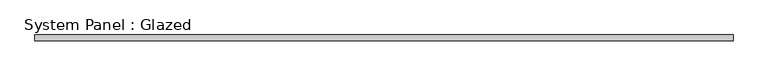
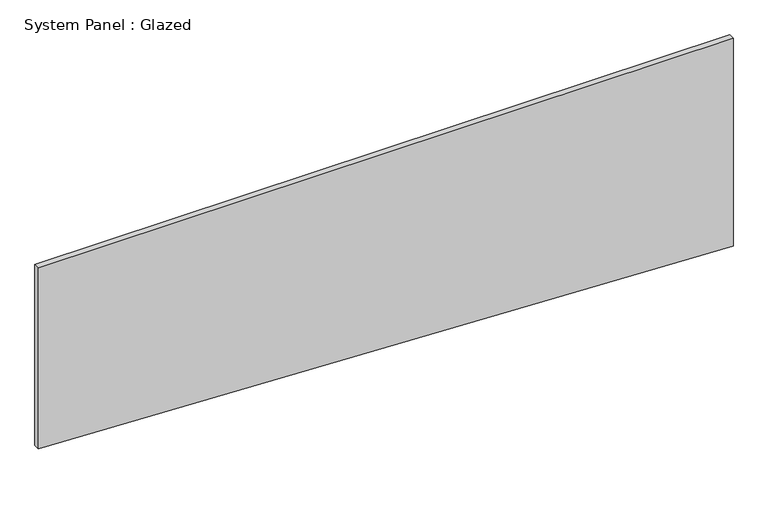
"""IFC4 building model written with IfcOpenShell, lengths in millimetres: plate geometry, System Panel : Glazed."""

from ifc_helpers import new_model, si_unit, frame, origin, place, context, project, spatial, polyline, outline, extrude, source, transform, mapped, element, save


def system_panel_glazed_c666a364(model_context):
    return source(origin(), model_context, "Body", "SweptSolid", [
        extrude(outline(polyline([(124.2719996, -1504.95), (0.0, 1504.95), (952.3915583, 1504.95), (952.3915583, -1504.95), (124.2719996, -1504.95)])), frame((0.0, 19.05, 0.0), z_axis=(0.0, 1.0, 0.0), x_axis=(0.0, 0.0, 1.0)), (0.0, 0.0, 1.0), 25.4),
    ])


if __name__ == "__main__":
    model = new_model("IFC4")
    model_context = context("Model", 3, world=origin())
    ifc_project = project(units=[si_unit("LENGTHUNIT", "METRE", prefix="MILLI")], contexts=[model_context])
    site = spatial("IfcSite", under=ifc_project)
    building = spatial("IfcBuilding", under=site)
    placement = place(None, origin())
    system_panel_glazed_shape = system_panel_glazed_c666a364(model_context)
    element("IfcPlate", 1, ObjectType="System Panel : Glazed", at=placement, inside=building, context=model_context, shape_type="MappedRepresentation", body=[
        mapped(system_panel_glazed_shape, transform((0.0, 0.0, 0.0), x_axis=(1.0, 0.0, 0.0), y_axis=(0.0, 1.0, 0.0), z_axis=(0.0, 0.0, 1.0))),
    ])
    save(model, "model.ifc")
